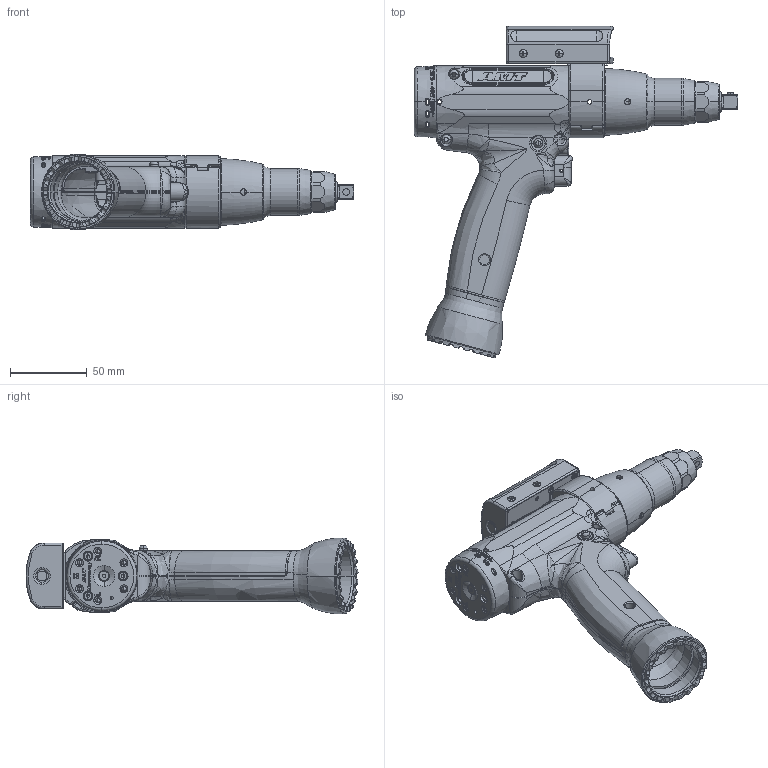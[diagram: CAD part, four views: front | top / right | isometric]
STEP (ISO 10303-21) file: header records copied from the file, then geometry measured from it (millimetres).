
FILE_DESCRIPTION (( 'STEP AP214' ), '1' );
FILE_NAME ('7900226_PCX1013ZV38_Scanner.STEP', '2012-02-07T16:42:02', ( ' ' ), ( '' ), 'SwSTEP 2.0', 'SolidWorks 2009', '' );
FILE_SCHEMA (( 'AUTOMOTIVE_DESIGN' ));
Length unit declared in the file: millimetre
Products named in the file (1): 7900226_PCX1013ZV38_Scanner
Bounding box: 210.8 x 216.58 x 49.52 mm (x, y, z)
Surface area: 74800.5 mm2 (no closed solid volume)
Topology: 0 solids, 74 shells, 1356 faces, 5058 edges, 3657 vertices
Faces by surface type: cylinder 451, plane 397, bspline 274, cone 101, torus 98, sphere 35
Entity records: 99721 total; most frequent: CARTESIAN_POINT 46938, ORIENTED_EDGE 7715, DIRECTION 6672, EDGE_CURVE 5010, VERTEX_POINT 3646, AXIS2_PLACEMENT_3D 2450, VECTOR 1772, LINE 1772
